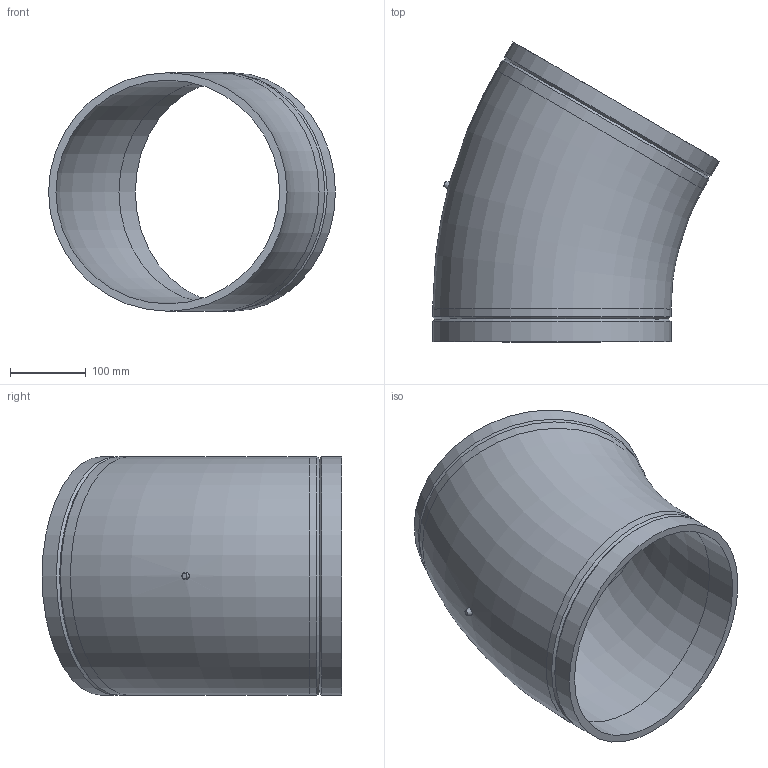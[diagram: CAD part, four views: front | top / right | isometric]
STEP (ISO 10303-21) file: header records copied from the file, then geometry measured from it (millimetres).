
FILE_DESCRIPTION(/* description */ (''),/* implementation_level */ '2;1');
FILE_NAME(/* name */ 'Z:\Geberit\Export\NewStep\PE Bogen Einzelteil_Ipart\stp\372030.stp',/* time_stamp */ '2014-04-02T11:55:40+02:00',/* author */ ('bruh'),/* organization */ (''),/* preprocessor_version */ 'ST-DEVELOPER v15.2',/* originating_system */ 'Autodesk Inventor 2014',/* authorisation */ '');
FILE_SCHEMA (('AUTOMOTIVE_DESIGN { 1 0 10303 214 3 1 1 }'));
Length unit declared in the file: millimetre
Products named in the file (1): 372030
Bounding box: 378.9 x 395.97 x 315 mm (x, y, z)
Volume: 3120950.8 mm3; surface area: 664744.4 mm2
Topology: 1 solids, 1 shells, 16 faces, 34 edges, 20 vertices
Faces by surface type: cylinder 6, cone 5, plane 3, torus 2
Full cylindrical faces by diameter (mm): 295.4 x2, 315 x4
Entity records: 407 total; most frequent: CARTESIAN_POINT 94, DIRECTION 64, EDGE_LOOP 32, ORIENTED_EDGE 32, AXIS2_PLACEMENT_3D 32, FACE_BOUND 18, STYLED_ITEM 17, VERTEX_POINT 16
